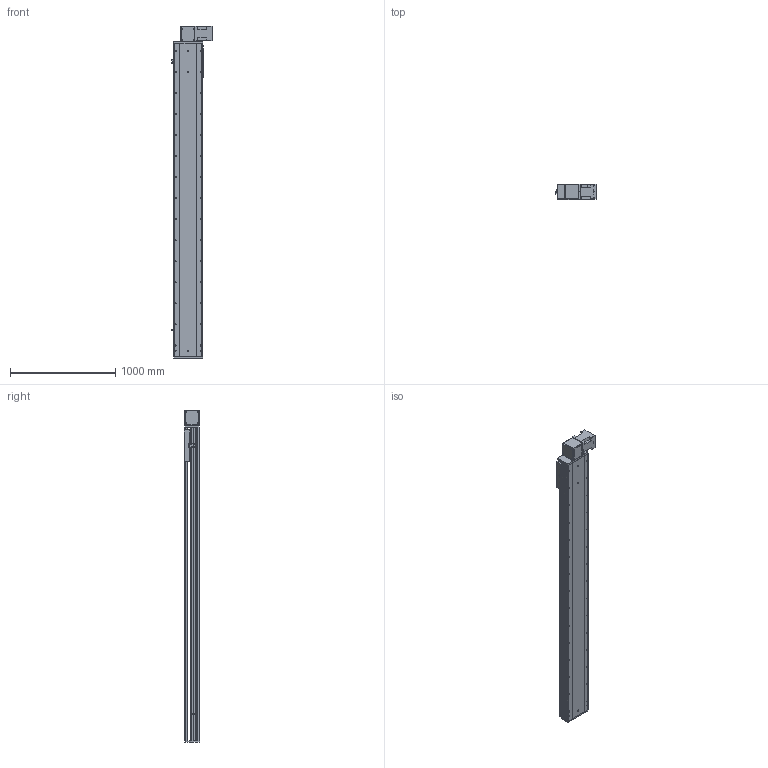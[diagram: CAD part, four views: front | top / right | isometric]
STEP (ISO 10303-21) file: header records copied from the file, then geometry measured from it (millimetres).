
FILE_DESCRIPTION (( 'STEP AP214' ), '1' );
FILE_NAME ('RTB28S-XX-2550-BL-M100-XX-C4.STEP', '2025-12-22T02:32:04', ( '' ), ( '' ), 'SwSTEP 2.0', 'SolidWorks 2018', '' );
FILE_SCHEMA (( 'AUTOMOTIVE_DESIGN' ));
Length unit declared in the file: millimetre
Products named in the file (4): RTB28S-GY-004^RTB28S-XX-XX-BL-M100-XX-C4; RTB28S-GY-008^RTB28S-XX-XX-BL-M100-XX-C4; RTB28S-GY-011^RTB28S-XX-XX-BL-M100-XX-C4; RTB28S-XX-2550-BL-M100-XX-C4
Assembly tree (3 placements, depth 2):
  RTB28S-XX-2550-BL-M100-XX-C4
    RTB28S-GY-011^RTB28S-XX-XX-BL-M100-XX-C4
    RTB28S-GY-004^RTB28S-XX-XX-BL-M100-XX-C4
    RTB28S-GY-008^RTB28S-XX-XX-BL-M100-XX-C4
Bounding box: 380.7 x 145 x 3157 mm (x, y, z)
Volume: 54017112 mm3; surface area: 5065614.1 mm2
Topology: 3 solids, 4 shells, 868 faces, 2328 edges, 1488 vertices
Faces by surface type: cylinder 423, plane 361, cone 80, torus 4
Entity records: 33401 total; most frequent: CARTESIAN_POINT 6202, DIRECTION 4950, ORIENTED_EDGE 4592, EDGE_CURVE 2296, AXIS2_PLACEMENT_3D 1820, VERTEX_POINT 1488, LINE 1310, VECTOR 1310
